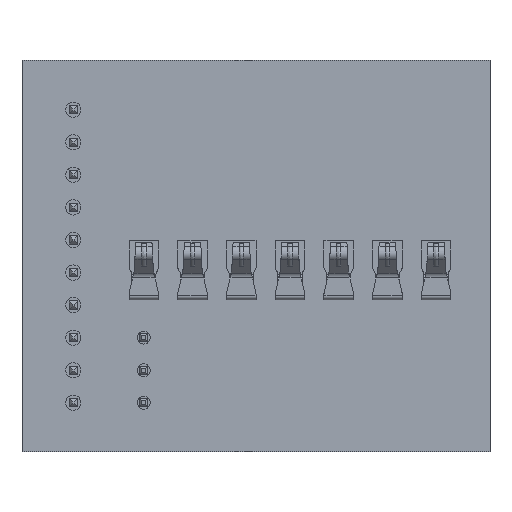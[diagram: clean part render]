
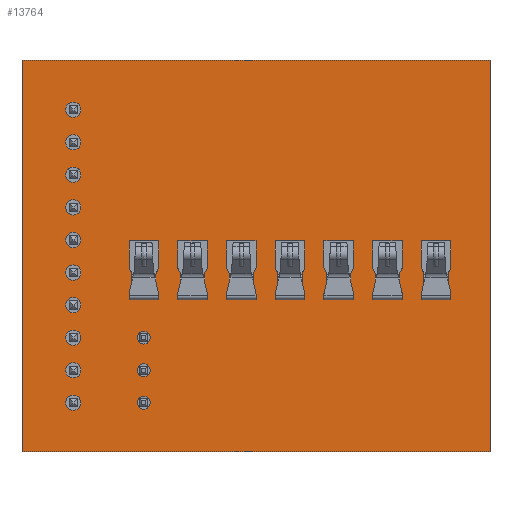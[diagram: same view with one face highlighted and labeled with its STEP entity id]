
A CAD part, top view. The second image highlights one B-rep face of the part: STEP entity #13764.
In plain terms, the highlighted planar face has unit normal (0, 0, 1).
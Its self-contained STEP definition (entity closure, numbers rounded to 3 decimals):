
#13509 = VERTEX_POINT('',#13510);
#13510 = CARTESIAN_POINT('',(18.25,-15.25,1.51));
#13516 = EDGE_CURVE('',#13509,#13517,#13519,.T.);
#13517 = VERTEX_POINT('',#13518);
#13518 = CARTESIAN_POINT('',(-18.25,-15.25,1.51));
#13519 = LINE('',#13520,#13521);
#13520 = CARTESIAN_POINT('',(18.25,-15.25,1.51));
#13521 = VECTOR('',#13522,1.);
#13522 = DIRECTION('',(-1.,0.,0.));
#13549 = VERTEX_POINT('',#13550);
#13550 = CARTESIAN_POINT('',(18.25,15.25,1.51));
#13556 = EDGE_CURVE('',#13549,#13509,#13557,.T.);
#13557 = LINE('',#13558,#13559);
#13558 = CARTESIAN_POINT('',(18.25,15.25,1.51));
#13559 = VECTOR('',#13560,1.);
#13560 = DIRECTION('',(0.,-1.,0.));
#13578 = EDGE_CURVE('',#13517,#13579,#13581,.T.);
#13579 = VERTEX_POINT('',#13580);
#13580 = CARTESIAN_POINT('',(-18.25,15.25,1.51));
#13581 = LINE('',#13582,#13583);
#13582 = CARTESIAN_POINT('',(-18.25,-15.25,1.51));
#13583 = VECTOR('',#13584,1.);
#13584 = DIRECTION('',(0.,1.,0.));
#13764 = ADVANCED_FACE('',(#13765,#13776,#13787,#13798,#13809,#13820,
    #13831,#13842,#13853,#13864,#13875,#13886,#13897,#13908),#13919,.T.
  );
#13765 = FACE_BOUND('',#13766,.T.);
#13766 = EDGE_LOOP('',(#13767,#13768,#13769,#13775));
#13767 = ORIENTED_EDGE('',*,*,#13516,.F.);
#13768 = ORIENTED_EDGE('',*,*,#13556,.F.);
#13769 = ORIENTED_EDGE('',*,*,#13770,.F.);
#13770 = EDGE_CURVE('',#13579,#13549,#13771,.T.);
#13771 = LINE('',#13772,#13773);
#13772 = CARTESIAN_POINT('',(-18.25,15.25,1.51));
#13773 = VECTOR('',#13774,1.);
#13774 = DIRECTION('',(1.,0.,0.));
#13775 = ORIENTED_EDGE('',*,*,#13578,.F.);
#13776 = FACE_BOUND('',#13777,.T.);
#13777 = EDGE_LOOP('',(#13778));
#13778 = ORIENTED_EDGE('',*,*,#13779,.T.);
#13779 = EDGE_CURVE('',#13780,#13780,#13782,.T.);
#13780 = VERTEX_POINT('',#13781);
#13781 = CARTESIAN_POINT('',(-14.25,-12.045,1.51));
#13782 = CIRCLE('',#13783,0.595);
#13783 = AXIS2_PLACEMENT_3D('',#13784,#13785,#13786);
#13784 = CARTESIAN_POINT('',(-14.25,-11.45,1.51));
#13785 = DIRECTION('',(-0.,0.,-1.));
#13786 = DIRECTION('',(-0.,-1.,0.));
#13787 = FACE_BOUND('',#13788,.T.);
#13788 = EDGE_LOOP('',(#13789));
#13789 = ORIENTED_EDGE('',*,*,#13790,.T.);
#13790 = EDGE_CURVE('',#13791,#13791,#13793,.T.);
#13791 = VERTEX_POINT('',#13792);
#13792 = CARTESIAN_POINT('',(-14.25,-9.505,1.51));
#13793 = CIRCLE('',#13794,0.595);
#13794 = AXIS2_PLACEMENT_3D('',#13795,#13796,#13797);
#13795 = CARTESIAN_POINT('',(-14.25,-8.91,1.51));
#13796 = DIRECTION('',(-0.,0.,-1.));
#13797 = DIRECTION('',(-0.,-1.,0.));
#13798 = FACE_BOUND('',#13799,.T.);
#13799 = EDGE_LOOP('',(#13800));
#13800 = ORIENTED_EDGE('',*,*,#13801,.T.);
#13801 = EDGE_CURVE('',#13802,#13802,#13804,.T.);
#13802 = VERTEX_POINT('',#13803);
#13803 = CARTESIAN_POINT('',(-14.25,-6.965,1.51));
#13804 = CIRCLE('',#13805,0.595);
#13805 = AXIS2_PLACEMENT_3D('',#13806,#13807,#13808);
#13806 = CARTESIAN_POINT('',(-14.25,-6.37,1.51));
#13807 = DIRECTION('',(-0.,0.,-1.));
#13808 = DIRECTION('',(-0.,-1.,0.));
#13809 = FACE_BOUND('',#13810,.T.);
#13810 = EDGE_LOOP('',(#13811));
#13811 = ORIENTED_EDGE('',*,*,#13812,.T.);
#13812 = EDGE_CURVE('',#13813,#13813,#13815,.T.);
#13813 = VERTEX_POINT('',#13814);
#13814 = CARTESIAN_POINT('',(-14.25,-4.425,1.51));
#13815 = CIRCLE('',#13816,0.595);
#13816 = AXIS2_PLACEMENT_3D('',#13817,#13818,#13819);
#13817 = CARTESIAN_POINT('',(-14.25,-3.83,1.51));
#13818 = DIRECTION('',(-0.,0.,-1.));
#13819 = DIRECTION('',(-0.,-1.,0.));
#13820 = FACE_BOUND('',#13821,.T.);
#13821 = EDGE_LOOP('',(#13822));
#13822 = ORIENTED_EDGE('',*,*,#13823,.T.);
#13823 = EDGE_CURVE('',#13824,#13824,#13826,.T.);
#13824 = VERTEX_POINT('',#13825);
#13825 = CARTESIAN_POINT('',(-14.25,-1.885,1.51));
#13826 = CIRCLE('',#13827,0.595);
#13827 = AXIS2_PLACEMENT_3D('',#13828,#13829,#13830);
#13828 = CARTESIAN_POINT('',(-14.25,-1.29,1.51));
#13829 = DIRECTION('',(-0.,0.,-1.));
#13830 = DIRECTION('',(-0.,-1.,0.));
#13831 = FACE_BOUND('',#13832,.T.);
#13832 = EDGE_LOOP('',(#13833));
#13833 = ORIENTED_EDGE('',*,*,#13834,.T.);
#13834 = EDGE_CURVE('',#13835,#13835,#13837,.T.);
#13835 = VERTEX_POINT('',#13836);
#13836 = CARTESIAN_POINT('',(-8.75,-11.95,1.51));
#13837 = CIRCLE('',#13838,0.5);
#13838 = AXIS2_PLACEMENT_3D('',#13839,#13840,#13841);
#13839 = CARTESIAN_POINT('',(-8.75,-11.45,1.51));
#13840 = DIRECTION('',(-0.,0.,-1.));
#13841 = DIRECTION('',(-0.,-1.,0.));
#13842 = FACE_BOUND('',#13843,.T.);
#13843 = EDGE_LOOP('',(#13844));
#13844 = ORIENTED_EDGE('',*,*,#13845,.T.);
#13845 = EDGE_CURVE('',#13846,#13846,#13848,.T.);
#13846 = VERTEX_POINT('',#13847);
#13847 = CARTESIAN_POINT('',(-8.75,-9.41,1.51));
#13848 = CIRCLE('',#13849,0.5);
#13849 = AXIS2_PLACEMENT_3D('',#13850,#13851,#13852);
#13850 = CARTESIAN_POINT('',(-8.75,-8.91,1.51));
#13851 = DIRECTION('',(-0.,0.,-1.));
#13852 = DIRECTION('',(-0.,-1.,0.));
#13853 = FACE_BOUND('',#13854,.T.);
#13854 = EDGE_LOOP('',(#13855));
#13855 = ORIENTED_EDGE('',*,*,#13856,.T.);
#13856 = EDGE_CURVE('',#13857,#13857,#13859,.T.);
#13857 = VERTEX_POINT('',#13858);
#13858 = CARTESIAN_POINT('',(-8.75,-6.87,1.51));
#13859 = CIRCLE('',#13860,0.5);
#13860 = AXIS2_PLACEMENT_3D('',#13861,#13862,#13863);
#13861 = CARTESIAN_POINT('',(-8.75,-6.37,1.51));
#13862 = DIRECTION('',(-0.,0.,-1.));
#13863 = DIRECTION('',(-0.,-1.,0.));
#13864 = FACE_BOUND('',#13865,.T.);
#13865 = EDGE_LOOP('',(#13866));
#13866 = ORIENTED_EDGE('',*,*,#13867,.T.);
#13867 = EDGE_CURVE('',#13868,#13868,#13870,.T.);
#13868 = VERTEX_POINT('',#13869);
#13869 = CARTESIAN_POINT('',(-14.25,0.655,1.51));
#13870 = CIRCLE('',#13871,0.595);
#13871 = AXIS2_PLACEMENT_3D('',#13872,#13873,#13874);
#13872 = CARTESIAN_POINT('',(-14.25,1.25,1.51));
#13873 = DIRECTION('',(-0.,0.,-1.));
#13874 = DIRECTION('',(-0.,-1.,0.));
#13875 = FACE_BOUND('',#13876,.T.);
#13876 = EDGE_LOOP('',(#13877));
#13877 = ORIENTED_EDGE('',*,*,#13878,.T.);
#13878 = EDGE_CURVE('',#13879,#13879,#13881,.T.);
#13879 = VERTEX_POINT('',#13880);
#13880 = CARTESIAN_POINT('',(-14.25,3.195,1.51));
#13881 = CIRCLE('',#13882,0.595);
#13882 = AXIS2_PLACEMENT_3D('',#13883,#13884,#13885);
#13883 = CARTESIAN_POINT('',(-14.25,3.79,1.51));
#13884 = DIRECTION('',(-0.,0.,-1.));
#13885 = DIRECTION('',(-0.,-1.,0.));
#13886 = FACE_BOUND('',#13887,.T.);
#13887 = EDGE_LOOP('',(#13888));
#13888 = ORIENTED_EDGE('',*,*,#13889,.T.);
#13889 = EDGE_CURVE('',#13890,#13890,#13892,.T.);
#13890 = VERTEX_POINT('',#13891);
#13891 = CARTESIAN_POINT('',(-14.25,5.735,1.51));
#13892 = CIRCLE('',#13893,0.595);
#13893 = AXIS2_PLACEMENT_3D('',#13894,#13895,#13896);
#13894 = CARTESIAN_POINT('',(-14.25,6.33,1.51));
#13895 = DIRECTION('',(-0.,0.,-1.));
#13896 = DIRECTION('',(-0.,-1.,0.));
#13897 = FACE_BOUND('',#13898,.T.);
#13898 = EDGE_LOOP('',(#13899));
#13899 = ORIENTED_EDGE('',*,*,#13900,.T.);
#13900 = EDGE_CURVE('',#13901,#13901,#13903,.T.);
#13901 = VERTEX_POINT('',#13902);
#13902 = CARTESIAN_POINT('',(-14.25,8.275,1.51));
#13903 = CIRCLE('',#13904,0.595);
#13904 = AXIS2_PLACEMENT_3D('',#13905,#13906,#13907);
#13905 = CARTESIAN_POINT('',(-14.25,8.87,1.51));
#13906 = DIRECTION('',(-0.,0.,-1.));
#13907 = DIRECTION('',(-0.,-1.,0.));
#13908 = FACE_BOUND('',#13909,.T.);
#13909 = EDGE_LOOP('',(#13910));
#13910 = ORIENTED_EDGE('',*,*,#13911,.T.);
#13911 = EDGE_CURVE('',#13912,#13912,#13914,.T.);
#13912 = VERTEX_POINT('',#13913);
#13913 = CARTESIAN_POINT('',(-14.25,10.815,1.51));
#13914 = CIRCLE('',#13915,0.595);
#13915 = AXIS2_PLACEMENT_3D('',#13916,#13917,#13918);
#13916 = CARTESIAN_POINT('',(-14.25,11.41,1.51));
#13917 = DIRECTION('',(-0.,0.,-1.));
#13918 = DIRECTION('',(-0.,-1.,0.));
#13919 = PLANE('',#13920);
#13920 = AXIS2_PLACEMENT_3D('',#13921,#13922,#13923);
#13921 = CARTESIAN_POINT('',(0.,0.,1.51));
#13922 = DIRECTION('',(0.,0.,1.));
#13923 = DIRECTION('',(1.,0.,-0.));
